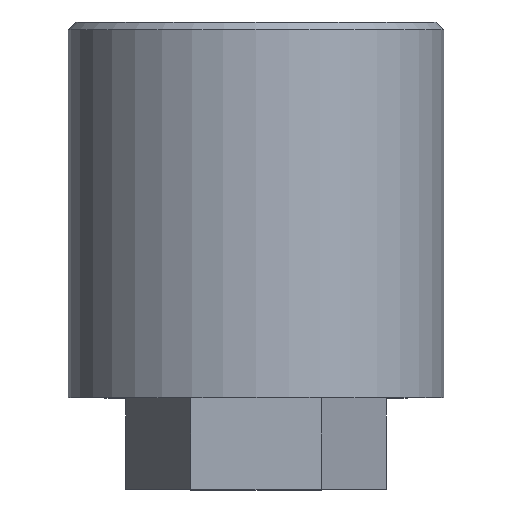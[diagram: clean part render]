
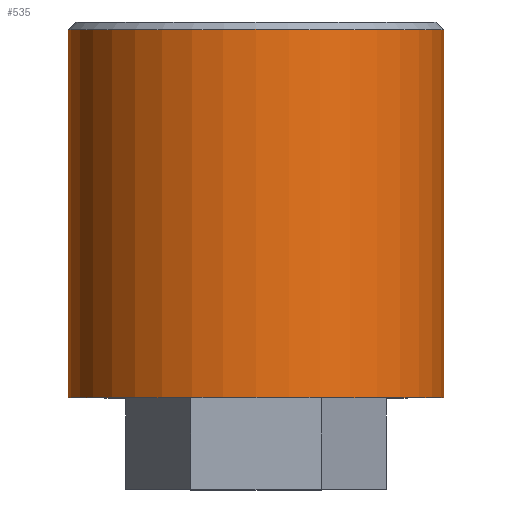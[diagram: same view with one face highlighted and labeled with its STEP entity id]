
A CAD part, top view. The second image highlights one B-rep face of the part: STEP entity #535.
In plain terms, the highlighted cylindrical face has radius 10 mm (diameter 20 mm), a full revolution.
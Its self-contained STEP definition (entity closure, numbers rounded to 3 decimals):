
#20=B_SPLINE_CURVE_WITH_KNOTS('',3,(#874,#875,#876,#877,#878,#879,#880,
#881,#882,#883,#884,#885,#886,#887,#888,#889,#890,#891,#892,#893,#894,#895,
#896,#897,#898,#899,#900,#901,#902,#903,#904,#905,#906,#907),
 .UNSPECIFIED.,.T.,.F.,(4,2,2,2,2,2,2,2,2,2,2,2,2,2,2,2,4),(0.,0.064,
0.128,0.193,0.257,0.321,0.385,
0.449,0.513,0.578,0.642,0.706,
0.77,0.834,0.898,0.963,1.027),
 .UNSPECIFIED.);
#25=CYLINDRICAL_SURFACE('',#601,10.);
#32=FACE_BOUND('',#91,.T.);
#33=FACE_BOUND('',#92,.T.);
#56=FACE_OUTER_BOUND('',#90,.T.);
#90=EDGE_LOOP('',(#430,#431,#432,#433,#434));
#91=EDGE_LOOP('',(#435));
#92=EDGE_LOOP('',(#436,#437,#438,#439));
#113=LINE('',#784,#165);
#121=LINE('',#804,#173);
#140=LINE('',#920,#192);
#165=VECTOR('',#638,10.);
#173=VECTOR('',#656,10.);
#192=VECTOR('',#715,10.);
#215=CIRCLE('',#578,10.);
#217=CIRCLE('',#583,10.);
#223=CIRCLE('',#599,10.);
#224=CIRCLE('',#600,10.);
#225=CIRCLE('',#602,10.);
#236=VERTEX_POINT('',#782);
#237=VERTEX_POINT('',#783);
#240=VERTEX_POINT('',#791);
#244=VERTEX_POINT('',#803);
#259=VERTEX_POINT('',#872);
#261=VERTEX_POINT('',#913);
#262=VERTEX_POINT('',#915);
#263=VERTEX_POINT('',#919);
#286=EDGE_CURVE('',#236,#237,#113,.T.);
#290=EDGE_CURVE('',#237,#240,#215,.T.);
#296=EDGE_CURVE('',#240,#244,#121,.T.);
#298=EDGE_CURVE('',#244,#236,#217,.T.);
#322=EDGE_CURVE('',#259,#259,#20,.T.);
#326=EDGE_CURVE('',#261,#262,#223,.T.);
#327=EDGE_CURVE('',#262,#261,#224,.T.);
#328=EDGE_CURVE('',#262,#263,#140,.T.);
#329=EDGE_CURVE('',#263,#263,#225,.T.);
#430=ORIENTED_EDGE('',*,*,#326,.F.);
#431=ORIENTED_EDGE('',*,*,#327,.F.);
#432=ORIENTED_EDGE('',*,*,#328,.T.);
#433=ORIENTED_EDGE('',*,*,#329,.T.);
#434=ORIENTED_EDGE('',*,*,#328,.F.);
#435=ORIENTED_EDGE('',*,*,#322,.T.);
#436=ORIENTED_EDGE('',*,*,#296,.T.);
#437=ORIENTED_EDGE('',*,*,#298,.T.);
#438=ORIENTED_EDGE('',*,*,#286,.T.);
#439=ORIENTED_EDGE('',*,*,#290,.T.);
#535=ADVANCED_FACE('',(#56,#32,#33),#25,.T.);
#578=AXIS2_PLACEMENT_3D('',#792,#644,#645);
#583=AXIS2_PLACEMENT_3D('',#807,#660,#661);
#599=AXIS2_PLACEMENT_3D('',#916,#709,#710);
#600=AXIS2_PLACEMENT_3D('',#917,#711,#712);
#601=AXIS2_PLACEMENT_3D('',#918,#713,#714);
#602=AXIS2_PLACEMENT_3D('',#921,#716,#717);
#638=DIRECTION('',(0.,-1.,0.));
#644=DIRECTION('center_axis',(0.,-1.,0.));
#645=DIRECTION('ref_axis',(1.,0.,0.));
#656=DIRECTION('',(0.,1.,0.));
#660=DIRECTION('center_axis',(0.,1.,0.));
#661=DIRECTION('ref_axis',(1.,0.,0.));
#709=DIRECTION('center_axis',(0.,1.,0.));
#710=DIRECTION('ref_axis',(-1.,0.,0.));
#711=DIRECTION('center_axis',(0.,1.,0.));
#712=DIRECTION('ref_axis',(-1.,0.,0.));
#713=DIRECTION('center_axis',(0.,1.,0.));
#714=DIRECTION('ref_axis',(1.,0.,0.));
#715=DIRECTION('',(0.,-1.,0.));
#716=DIRECTION('center_axis',(0.,1.,0.));
#717=DIRECTION('ref_axis',(1.,0.,0.));
#782=CARTESIAN_POINT('',(-2.8,10.6,-9.6));
#783=CARTESIAN_POINT('',(-2.8,7.9,-9.6));
#784=CARTESIAN_POINT('',(-2.8,4.9,-9.6));
#791=CARTESIAN_POINT('',(2.8,7.9,-9.6));
#792=CARTESIAN_POINT('Origin',(0.,7.9,0.));
#803=CARTESIAN_POINT('',(2.8,10.6,-9.6));
#804=CARTESIAN_POINT('',(2.8,4.9,-9.6));
#807=CARTESIAN_POINT('Origin',(0.,10.6,0.));
#872=CARTESIAN_POINT('',(-1.7,18.9,-9.854));
#874=CARTESIAN_POINT('Ctrl Pts',(-1.7,18.9,-9.854));
#875=CARTESIAN_POINT('Ctrl Pts',(-1.7,18.686,-9.854));
#876=CARTESIAN_POINT('Ctrl Pts',(-1.657,18.458,-9.862));
#877=CARTESIAN_POINT('Ctrl Pts',(-1.484,18.04,-9.89));
#878=CARTESIAN_POINT('Ctrl Pts',(-1.353,17.849,-9.909));
#879=CARTESIAN_POINT('Ctrl Pts',(-1.051,17.547,-9.946));
#880=CARTESIAN_POINT('Ctrl Pts',(-0.861,17.416,-9.965));
#881=CARTESIAN_POINT('Ctrl Pts',(-0.442,17.243,-9.992));
#882=CARTESIAN_POINT('Ctrl Pts',(-0.214,17.2,-10.));
#883=CARTESIAN_POINT('Ctrl Pts',(0.214,17.2,-10.));
#884=CARTESIAN_POINT('Ctrl Pts',(0.442,17.243,-9.992));
#885=CARTESIAN_POINT('Ctrl Pts',(0.861,17.416,-9.965));
#886=CARTESIAN_POINT('Ctrl Pts',(1.051,17.547,-9.946));
#887=CARTESIAN_POINT('Ctrl Pts',(1.353,17.849,-9.909));
#888=CARTESIAN_POINT('Ctrl Pts',(1.484,18.04,-9.89));
#889=CARTESIAN_POINT('Ctrl Pts',(1.657,18.458,-9.862));
#890=CARTESIAN_POINT('Ctrl Pts',(1.7,18.686,-9.854));
#891=CARTESIAN_POINT('Ctrl Pts',(1.7,19.114,-9.854));
#892=CARTESIAN_POINT('Ctrl Pts',(1.657,19.342,-9.862));
#893=CARTESIAN_POINT('Ctrl Pts',(1.484,19.76,-9.89));
#894=CARTESIAN_POINT('Ctrl Pts',(1.353,19.951,-9.909));
#895=CARTESIAN_POINT('Ctrl Pts',(1.051,20.253,-9.946));
#896=CARTESIAN_POINT('Ctrl Pts',(0.861,20.384,-9.965));
#897=CARTESIAN_POINT('Ctrl Pts',(0.442,20.557,-9.992));
#898=CARTESIAN_POINT('Ctrl Pts',(0.214,20.6,-10.));
#899=CARTESIAN_POINT('Ctrl Pts',(-0.214,20.6,-10.));
#900=CARTESIAN_POINT('Ctrl Pts',(-0.442,20.557,-9.992));
#901=CARTESIAN_POINT('Ctrl Pts',(-0.861,20.384,-9.965));
#902=CARTESIAN_POINT('Ctrl Pts',(-1.051,20.253,-9.946));
#903=CARTESIAN_POINT('Ctrl Pts',(-1.353,19.951,-9.909));
#904=CARTESIAN_POINT('Ctrl Pts',(-1.484,19.76,-9.89));
#905=CARTESIAN_POINT('Ctrl Pts',(-1.657,19.342,-9.862));
#906=CARTESIAN_POINT('Ctrl Pts',(-1.7,19.114,-9.854));
#907=CARTESIAN_POINT('Ctrl Pts',(-1.7,18.9,-9.854));
#913=CARTESIAN_POINT('',(10.,24.5,0.));
#915=CARTESIAN_POINT('',(-10.,24.5,0.));
#916=CARTESIAN_POINT('Origin',(0.,24.5,0.));
#917=CARTESIAN_POINT('Origin',(0.,24.5,0.));
#918=CARTESIAN_POINT('Origin',(0.,4.9,0.));
#919=CARTESIAN_POINT('',(-10.,4.9,0.));
#920=CARTESIAN_POINT('',(-10.,4.9,0.));
#921=CARTESIAN_POINT('Origin',(0.,4.9,0.));
